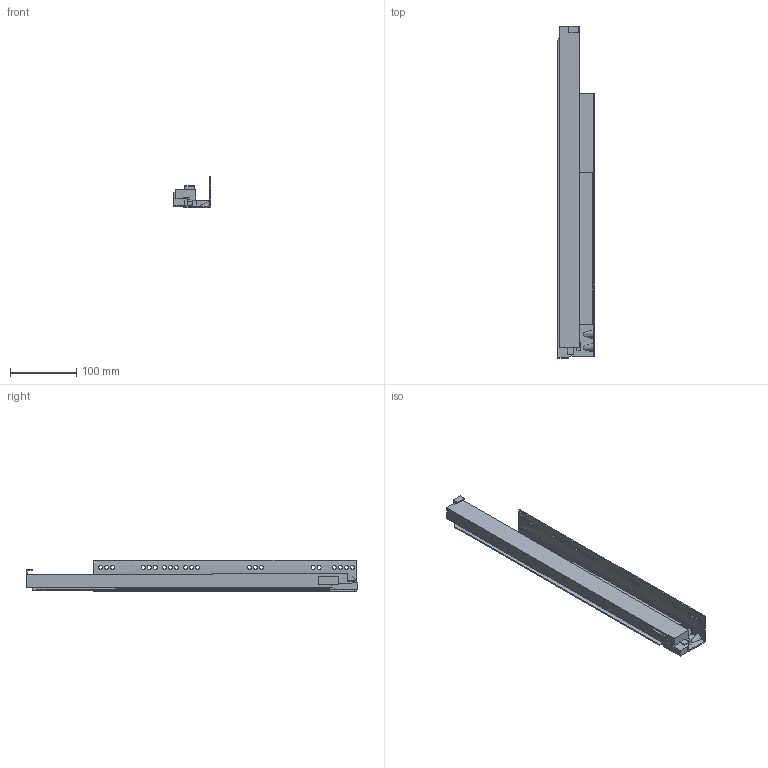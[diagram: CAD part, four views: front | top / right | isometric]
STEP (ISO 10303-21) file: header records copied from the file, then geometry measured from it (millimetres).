
FILE_DESCRIPTION (( 'STEP AP214' ), '1' );
FILE_NAME ('_IMOS_Dynapro_Softclose_D516_NL_500_RE.step', '2010-07-16T06:03:45', ( 'grass' ), ( '' ), 'SwSTEP 2.0', 'SolidWorks 2009', '' );
FILE_SCHEMA (( 'AUTOMOTIVE_DESIGN' ));
Length unit declared in the file: millimetre
Products named in the file (1): _IMOS_Dynapro_Softclose_D516_NL_500_RE
Bounding box: 57.08 x 500.07 x 47.86 mm (x, y, z)
Volume: 445950.8 mm3; surface area: 149198.5 mm2
Topology: 1 solids, 1 shells, 125 faces, 424 edges, 297 vertices
Faces by surface type: plane 76, cylinder 42, bspline 7
Entity records: 5458 total; most frequent: CARTESIAN_POINT 1561, ORIENTED_EDGE 840, DIRECTION 760, EDGE_CURVE 420, LINE 312, VECTOR 312, VERTEX_POINT 297, AXIS2_PLACEMENT_3D 224
